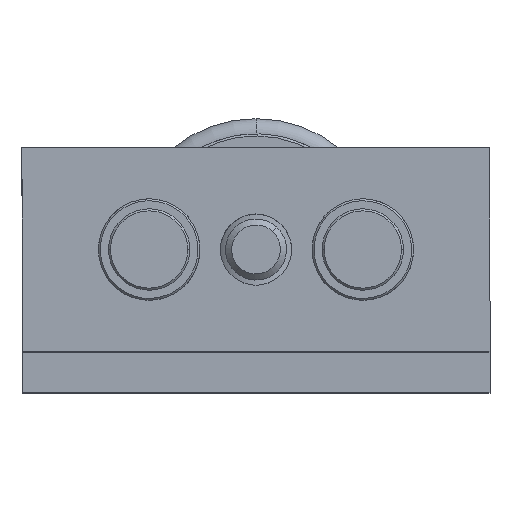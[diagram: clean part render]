
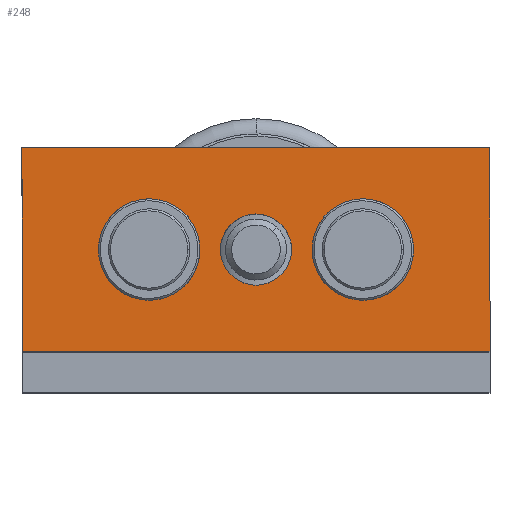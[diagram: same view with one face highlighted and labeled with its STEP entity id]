
A CAD part, top view. The second image highlights one B-rep face of the part: STEP entity #248.
In plain terms, the highlighted planar face has unit normal (0, 0, 1).
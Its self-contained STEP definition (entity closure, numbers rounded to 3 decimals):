
#248 = ADVANCED_FACE ( 'NONE', ( #7912, #7733, #7702, #7790 ), #3152, .F. ) ;
#929 = CARTESIAN_POINT ( 'NONE',  ( 23., 10., 23. ) ) ;
#1131 = ORIENTED_EDGE ( 'NONE', *, *, #29893, .F. ) ;
#1779 = CIRCLE ( 'NONE', #1892, 3.5 ) ;
#1892 = AXIS2_PLACEMENT_3D ( 'NONE', #13336, #13331, #13308 ) ;
#1933 = LINE ( 'NONE', #20738, #1987 ) ;
#1987 = VECTOR ( 'NONE', #20746, 1000. ) ;
#2867 = EDGE_CURVE ( 'NONE', #22796, #10800, #1779, .T. ) ;
#2926 = DIRECTION ( 'NONE',  ( 0., -1., 0. ) ) ;
#3002 = DIRECTION ( 'NONE',  ( 0., 0., 1. ) ) ;
#3010 = DIRECTION ( 'NONE',  ( 0., 0., -1. ) ) ;
#3152 = PLANE ( 'NONE',  #5300 ) ;
#4871 = EDGE_LOOP ( 'NONE', ( #19372, #21054 ) ) ;
#5300 = AXIS2_PLACEMENT_3D ( 'NONE', #7722, #3010, #2926 ) ;
#5689 = ORIENTED_EDGE ( 'NONE', *, *, #20894, .F. ) ;
#5706 = ORIENTED_EDGE ( 'NONE', *, *, #16314, .F. ) ;
#6743 = CARTESIAN_POINT ( 'NONE',  ( -10.5, 0., 23. ) ) ;
#7076 = EDGE_CURVE ( 'NONE', #23744, #27449, #20324, .T. ) ;
#7702 = FACE_BOUND ( 'NONE', #29013, .T. ) ;
#7722 = CARTESIAN_POINT ( 'NONE',  ( 23., 10., 23. ) ) ;
#7733 = FACE_BOUND ( 'NONE', #4871, .T. ) ;
#7790 = FACE_OUTER_BOUND ( 'NONE', #8513, .T. ) ;
#7912 = FACE_BOUND ( 'NONE', #28932, .T. ) ;
#7968 = LINE ( 'NONE', #929, #8254 ) ;
#8254 = VECTOR ( 'NONE', #18166, 1000. ) ;
#8513 = EDGE_LOOP ( 'NONE', ( #14102, #1131, #5706, #23049 ) ) ;
#8614 = EDGE_CURVE ( 'NONE', #17421, #27529, #17324, .T. ) ;
#9296 = DIRECTION ( 'NONE',  ( 0., 1., 0. ) ) ;
#9334 = EDGE_CURVE ( 'NONE', #23683, #27663, #15467, .T. ) ;
#9913 = AXIS2_PLACEMENT_3D ( 'NONE', #6743, #23494, #9296 ) ;
#9932 = CARTESIAN_POINT ( 'NONE',  ( 0., 3.5, 23. ) ) ;
#10800 = VERTEX_POINT ( 'NONE', #9932 ) ;
#11077 = AXIS2_PLACEMENT_3D ( 'NONE', #28605, #14733, #30772 ) ;
#11211 = ORIENTED_EDGE ( 'NONE', *, *, #2867, .F. ) ;
#11923 = AXIS2_PLACEMENT_3D ( 'NONE', #29217, #29159, #29125 ) ;
#12109 = AXIS2_PLACEMENT_3D ( 'NONE', #17729, #3002, #20095 ) ;
#13308 = DIRECTION ( 'NONE',  ( 0., 1., 0. ) ) ;
#13331 = DIRECTION ( 'NONE',  ( 0., 0., 1. ) ) ;
#13336 = CARTESIAN_POINT ( 'NONE',  ( 0., 0., 23. ) ) ;
#13400 = ORIENTED_EDGE ( 'NONE', *, *, #21258, .F. ) ;
#14102 = ORIENTED_EDGE ( 'NONE', *, *, #8614, .T. ) ;
#14733 = DIRECTION ( 'NONE',  ( 0., 0., 1. ) ) ;
#15292 = CIRCLE ( 'NONE', #9913, 4.99 ) ;
#15467 = CIRCLE ( 'NONE', #11923, 4.99 ) ;
#15764 = DIRECTION ( 'NONE',  ( 0., -1., 0. ) ) ;
#16314 = EDGE_CURVE ( 'NONE', #30866, #23514, #1933, .T. ) ;
#16817 = CIRCLE ( 'NONE', #11077, 3.5 ) ;
#17124 = VECTOR ( 'NONE', #25892, 1000. ) ;
#17175 = EDGE_CURVE ( 'NONE', #30866, #17421, #30764, .T. ) ;
#17324 = LINE ( 'NONE', #26580, #17124 ) ;
#17421 = VERTEX_POINT ( 'NONE', #24232 ) ;
#17652 = CIRCLE ( 'NONE', #12109, 4.99 ) ;
#17729 = CARTESIAN_POINT ( 'NONE',  ( 10.5, 0., 23. ) ) ;
#17764 = AXIS2_PLACEMENT_3D ( 'NONE', #24853, #23229, #23737 ) ;
#17895 = CARTESIAN_POINT ( 'NONE',  ( 10.5, 4.99, 23. ) ) ;
#18166 = DIRECTION ( 'NONE',  ( 0., -1., 0. ) ) ;
#18391 = CARTESIAN_POINT ( 'NONE',  ( 23., -10., 23. ) ) ;
#19242 = CARTESIAN_POINT ( 'NONE',  ( 23., 10., 23. ) ) ;
#19372 = ORIENTED_EDGE ( 'NONE', *, *, #9334, .F. ) ;
#20095 = DIRECTION ( 'NONE',  ( 0., 1., 0. ) ) ;
#20324 = CIRCLE ( 'NONE', #17764, 4.99 ) ;
#20571 = EDGE_CURVE ( 'NONE', #27663, #23683, #17652, .T. ) ;
#20738 = CARTESIAN_POINT ( 'NONE',  ( 23., 10., 23. ) ) ;
#20746 = DIRECTION ( 'NONE',  ( 1., 0., 0. ) ) ;
#20894 = EDGE_CURVE ( 'NONE', #10800, #22796, #16817, .T. ) ;
#21054 = ORIENTED_EDGE ( 'NONE', *, *, #20571, .F. ) ;
#21258 = EDGE_CURVE ( 'NONE', #27449, #23744, #15292, .T. ) ;
#22796 = VERTEX_POINT ( 'NONE', #25623 ) ;
#23049 = ORIENTED_EDGE ( 'NONE', *, *, #17175, .T. ) ;
#23229 = DIRECTION ( 'NONE',  ( 0., 0., 1. ) ) ;
#23494 = DIRECTION ( 'NONE',  ( 0., 0., 1. ) ) ;
#23514 = VERTEX_POINT ( 'NONE', #19242 ) ;
#23683 = VERTEX_POINT ( 'NONE', #17895 ) ;
#23737 = DIRECTION ( 'NONE',  ( 0., 1., 0. ) ) ;
#23744 = VERTEX_POINT ( 'NONE', #29604 ) ;
#24232 = CARTESIAN_POINT ( 'NONE',  ( -23., -10., 23. ) ) ;
#24853 = CARTESIAN_POINT ( 'NONE',  ( -10.5, 0., 23. ) ) ;
#25623 = CARTESIAN_POINT ( 'NONE',  ( 0., -3.5, 23. ) ) ;
#25892 = DIRECTION ( 'NONE',  ( 1., 0., 0. ) ) ;
#26540 = ORIENTED_EDGE ( 'NONE', *, *, #7076, .F. ) ;
#26580 = CARTESIAN_POINT ( 'NONE',  ( 23., -10., 23. ) ) ;
#26943 = CARTESIAN_POINT ( 'NONE',  ( -10.5, -4.99, 23. ) ) ;
#27449 = VERTEX_POINT ( 'NONE', #26943 ) ;
#27529 = VERTEX_POINT ( 'NONE', #18391 ) ;
#27663 = VERTEX_POINT ( 'NONE', #29136 ) ;
#28328 = CARTESIAN_POINT ( 'NONE',  ( -23., 10., 23. ) ) ;
#28605 = CARTESIAN_POINT ( 'NONE',  ( 0., 0., 23. ) ) ;
#28932 = EDGE_LOOP ( 'NONE', ( #26540, #13400 ) ) ;
#28986 = CARTESIAN_POINT ( 'NONE',  ( -23., 10., 23. ) ) ;
#29013 = EDGE_LOOP ( 'NONE', ( #5689, #11211 ) ) ;
#29125 = DIRECTION ( 'NONE',  ( 0., 1., 0. ) ) ;
#29136 = CARTESIAN_POINT ( 'NONE',  ( 10.5, -4.99, 23. ) ) ;
#29159 = DIRECTION ( 'NONE',  ( 0., 0., 1. ) ) ;
#29217 = CARTESIAN_POINT ( 'NONE',  ( 10.5, 0., 23. ) ) ;
#29604 = CARTESIAN_POINT ( 'NONE',  ( -10.5, 4.99, 23. ) ) ;
#29893 = EDGE_CURVE ( 'NONE', #23514, #27529, #7968, .T. ) ;
#30478 = VECTOR ( 'NONE', #15764, 1000. ) ;
#30764 = LINE ( 'NONE', #28986, #30478 ) ;
#30772 = DIRECTION ( 'NONE',  ( 0., 1., 0. ) ) ;
#30866 = VERTEX_POINT ( 'NONE', #28328 ) ;
